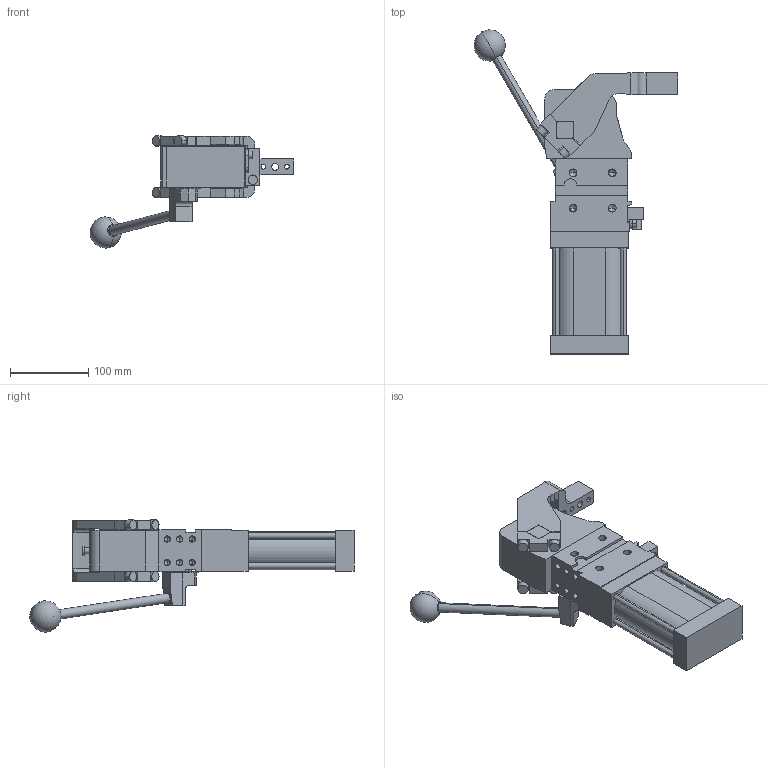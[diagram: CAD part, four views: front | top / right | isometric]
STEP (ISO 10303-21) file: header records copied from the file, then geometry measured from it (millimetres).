
FILE_DESCRIPTION (( 'STEP AP214' ), '1' );
FILE_NAME ('cplm63lbv3csi1g_26.STEP', '2023-01-26T14:55:20', ( '' ), ( '' ), 'SwSTEP 2.0', 'SolidWorks 2022', '' );
FILE_SCHEMA (( 'AUTOMOTIVE_DESIGN' ));
Length unit declared in the file: millimetre
Products named in the file (5): meccanica_cplm_63; comando_manuale_cplm_63; leva_cx_offset_45_cpl63; blocchetto_VEP_0; cplm63lbv3csi1g_26
Assembly tree (4 placements, depth 2):
  cplm63lbv3csi1g_26
    meccanica_cplm_63
    blocchetto_VEP_0
    leva_cx_offset_45_cpl63
    comando_manuale_cplm_63
Bounding box: 260.54 x 414.46 x 143.5 mm (x, y, z)
Volume: 1879230.1 mm3; surface area: 210274.1 mm2
Topology: 4 solids, 4 shells, 432 faces, 1134 edges, 703 vertices
Faces by surface type: plane 219, cylinder 161, cone 50, sphere 2
Entity records: 14579 total; most frequent: DIRECTION 2315, CARTESIAN_POINT 2298, ORIENTED_EDGE 2166, EDGE_CURVE 1083, AXIS2_PLACEMENT_3D 799, VECTOR 717, LINE 717, VERTEX_POINT 700
